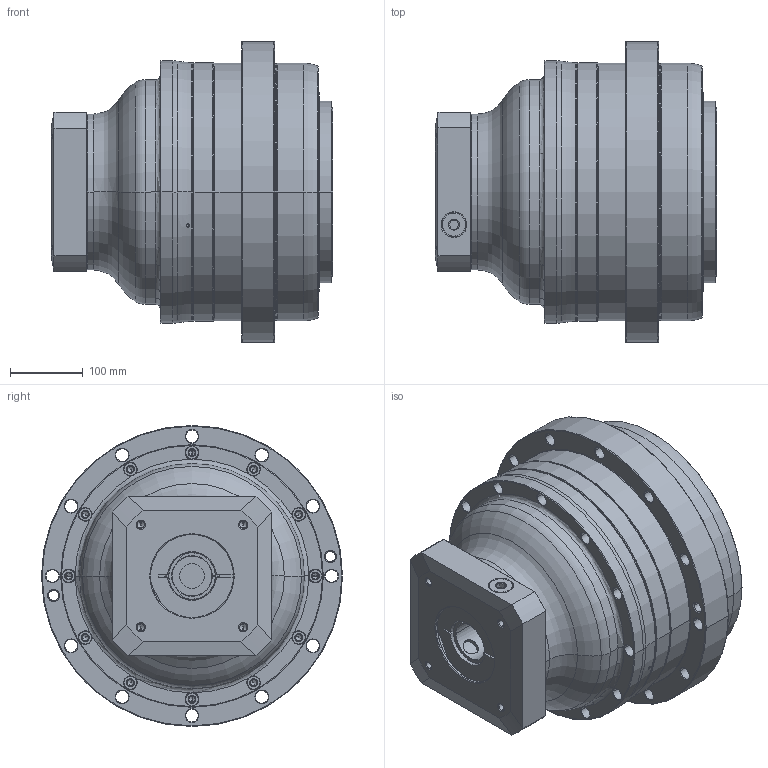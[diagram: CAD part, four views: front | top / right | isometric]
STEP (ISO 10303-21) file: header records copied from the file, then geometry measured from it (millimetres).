
FILE_DESCRIPTION((''),'2;1');
FILE_NAME('AH355_2ST_55-P0409C50101_ASM','2016-08-02T',('d01943'),(''),'PRO/ENGINEER BY PARAMETRIC TECHNOLOGY CORPORATION, 2008410','PRO/ENGINEER BY PARAMETRIC TECHNOLOGY CORPORATION, 2008410','');
FILE_SCHEMA(('CONFIG_CONTROL_DESIGN'));
Length unit declared in the file: millimetre
Products named in the file (8): P0276100003; P0357100003; P1339100301; P0409C50101; P0503C00016; P0962104001; 21711426021; AH355_2ST_55-P0409C50101_ASM
Assembly tree (7 placements, depth 2):
  AH355_2ST_55-P0409C50101_ASM
    P0276100003
    P0357100003
    P1339100301
    P0409C50101
    P0503C00016
    P0962104001
    21711426021
Bounding box: 387.5 x 415 x 415 mm (x, y, z)
Volume: 25605502.4 mm3; surface area: 1369970.5 mm2
Topology: 8 solids, 8 shells, 825 faces, 1877 edges, 1090 vertices
Faces by surface type: cylinder 306, cone 272, torus 114, plane 107, bspline 26
Entity records: 28144 total; most frequent: CARTESIAN_POINT 9049, DIRECTION 4371, ORIENTED_EDGE 3658, AXIS2_PLACEMENT_3D 1857, EDGE_CURVE 1829, VERTEX_POINT 1090, CIRCLE 1043, EDGE_LOOP 995
